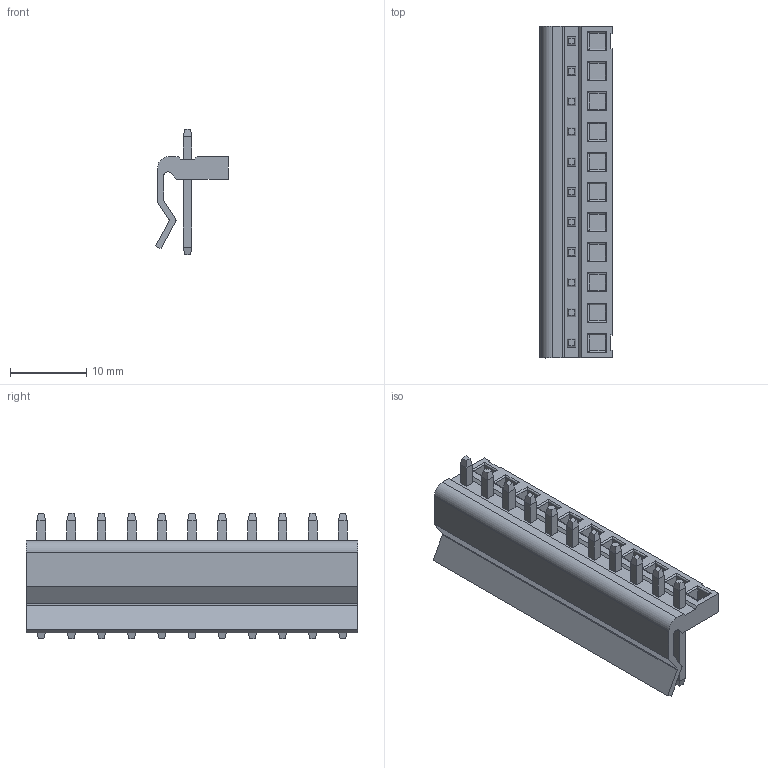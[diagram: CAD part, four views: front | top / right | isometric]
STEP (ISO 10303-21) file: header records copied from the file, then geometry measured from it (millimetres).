
FILE_DESCRIPTION(/* description */ (''),/* implementation_level */ '2;1');
FILE_NAME(/* name */ 'E:\工作文件\现出货3D文件\02宏一\3.96\HC-3.96-NA-02（直针-HCTL）\HC-3.96-11A-02（直针-HCTL）.stp',/* time_stamp */ '2024-02-27T17:45:48+08:00',/* author */ ('admin'),/* organization */ (''),/* preprocessor_version */ 'ST-DEVELOPER v18.1',/* originating_system */ 'Autodesk Inventor 2021',/* authorisation */ '');
FILE_SCHEMA (('AUTOMOTIVE_DESIGN { 1 0 10303 214 3 1 1 }'));
Length unit declared in the file: millimetre
Products named in the file (1): HC-3.96-3A-02（直针-HCTL）
Bounding box: 9.53 x 43.56 x 16.5 mm (x, y, z)
Volume: 1516.7 mm3; surface area: 2920 mm2
Topology: 1 solids, 1 shells, 328 faces, 747 edges, 454 vertices
Faces by surface type: plane 279, cylinder 49
Entity records: 9137 total; most frequent: CARTESIAN_POINT 1530, ORIENTED_EDGE 1494, DIRECTION 1459, EDGE_CURVE 747, LINE 693, VECTOR 693, VERTEX_POINT 454, AXIS2_PLACEMENT_3D 383
